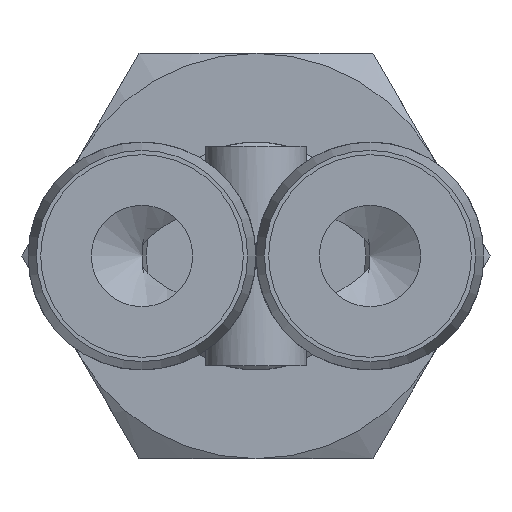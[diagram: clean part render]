
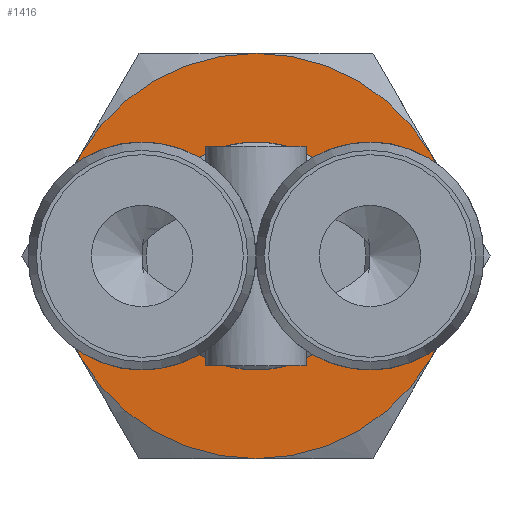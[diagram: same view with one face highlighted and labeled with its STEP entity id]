
A CAD part, front view. The second image highlights one B-rep face of the part: STEP entity #1416.
In plain terms, the highlighted planar face has unit normal (0, -1, 0).
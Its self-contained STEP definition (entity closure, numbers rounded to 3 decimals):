
#55=FACE_BOUND('',#411,.T.);
#314=FACE_OUTER_BOUND('',#410,.T.);
#410=EDGE_LOOP('',(#1267,#1268,#1269,#1270,#1271,#1272));
#411=EDGE_LOOP('',(#1273,#1274));
#491=CIRCLE('',#1567,12.);
#492=CIRCLE('',#1569,12.);
#493=CIRCLE('',#1571,12.);
#494=CIRCLE('',#1573,12.);
#495=CIRCLE('',#1575,12.);
#496=CIRCLE('',#1577,12.);
#521=CIRCLE('',#1623,6.5);
#522=CIRCLE('',#1624,6.5);
#624=VERTEX_POINT('',#2560);
#625=VERTEX_POINT('',#2564);
#627=VERTEX_POINT('',#2571);
#629=VERTEX_POINT('',#2581);
#631=VERTEX_POINT('',#2594);
#633=VERTEX_POINT('',#2604);
#665=VERTEX_POINT('',#2740);
#666=VERTEX_POINT('',#2741);
#809=EDGE_CURVE('',#624,#625,#491,.T.);
#812=EDGE_CURVE('',#627,#624,#492,.T.);
#815=EDGE_CURVE('',#629,#627,#493,.T.);
#817=EDGE_CURVE('',#631,#629,#494,.T.);
#820=EDGE_CURVE('',#633,#631,#495,.T.);
#823=EDGE_CURVE('',#625,#633,#496,.T.);
#872=EDGE_CURVE('',#665,#666,#521,.T.);
#873=EDGE_CURVE('',#666,#665,#522,.T.);
#1267=ORIENTED_EDGE('',*,*,#823,.T.);
#1268=ORIENTED_EDGE('',*,*,#820,.T.);
#1269=ORIENTED_EDGE('',*,*,#817,.T.);
#1270=ORIENTED_EDGE('',*,*,#815,.T.);
#1271=ORIENTED_EDGE('',*,*,#812,.T.);
#1272=ORIENTED_EDGE('',*,*,#809,.T.);
#1273=ORIENTED_EDGE('',*,*,#872,.F.);
#1274=ORIENTED_EDGE('',*,*,#873,.F.);
#1338=PLANE('',#1622);
#1416=ADVANCED_FACE('',(#314,#55),#1338,.T.);
#1567=AXIS2_PLACEMENT_3D('',#2568,#1921,#1922);
#1569=AXIS2_PLACEMENT_3D('',#2578,#1925,#1926);
#1571=AXIS2_PLACEMENT_3D('',#2588,#1929,#1930);
#1573=AXIS2_PLACEMENT_3D('',#2595,#1933,#1934);
#1575=AXIS2_PLACEMENT_3D('',#2605,#1937,#1938);
#1577=AXIS2_PLACEMENT_3D('',#2614,#1941,#1942);
#1622=AXIS2_PLACEMENT_3D('',#2739,#2042,#2043);
#1623=AXIS2_PLACEMENT_3D('',#2742,#2044,#2045);
#1624=AXIS2_PLACEMENT_3D('',#2743,#2046,#2047);
#1921=DIRECTION('center_axis',(0.,-1.,0.));
#1922=DIRECTION('ref_axis',(-1.,0.,0.));
#1925=DIRECTION('center_axis',(0.,-1.,0.));
#1926=DIRECTION('ref_axis',(-1.,0.,0.));
#1929=DIRECTION('center_axis',(0.,-1.,0.));
#1930=DIRECTION('ref_axis',(-1.,0.,0.));
#1933=DIRECTION('center_axis',(0.,-1.,0.));
#1934=DIRECTION('ref_axis',(-1.,0.,0.));
#1937=DIRECTION('center_axis',(0.,-1.,0.));
#1938=DIRECTION('ref_axis',(-1.,0.,0.));
#1941=DIRECTION('center_axis',(0.,-1.,0.));
#1942=DIRECTION('ref_axis',(-1.,0.,0.));
#2042=DIRECTION('center_axis',(0.,-1.,0.));
#2043=DIRECTION('ref_axis',(0.,0.,-1.));
#2044=DIRECTION('center_axis',(0.,-1.,0.));
#2045=DIRECTION('ref_axis',(1.,0.,0.));
#2046=DIRECTION('center_axis',(0.,-1.,0.));
#2047=DIRECTION('ref_axis',(1.,0.,0.));
#2560=CARTESIAN_POINT('',(10.392,18.5,6.));
#2564=CARTESIAN_POINT('',(0.,18.5,12.));
#2568=CARTESIAN_POINT('Origin',(0.,18.5,0.));
#2571=CARTESIAN_POINT('',(10.392,18.5,-6.));
#2578=CARTESIAN_POINT('Origin',(0.,18.5,0.));
#2581=CARTESIAN_POINT('',(0.,18.5,-12.));
#2588=CARTESIAN_POINT('Origin',(0.,18.5,0.));
#2594=CARTESIAN_POINT('',(-10.392,18.5,-6.));
#2595=CARTESIAN_POINT('Origin',(0.,18.5,0.));
#2604=CARTESIAN_POINT('',(-10.392,18.5,6.));
#2605=CARTESIAN_POINT('Origin',(0.,18.5,0.));
#2614=CARTESIAN_POINT('Origin',(0.,18.5,0.));
#2739=CARTESIAN_POINT('Origin',(6.5,18.5,0.));
#2740=CARTESIAN_POINT('',(6.5,18.5,0.));
#2741=CARTESIAN_POINT('',(-6.5,18.5,0.));
#2742=CARTESIAN_POINT('Origin',(0.,18.5,0.));
#2743=CARTESIAN_POINT('Origin',(0.,18.5,0.));
